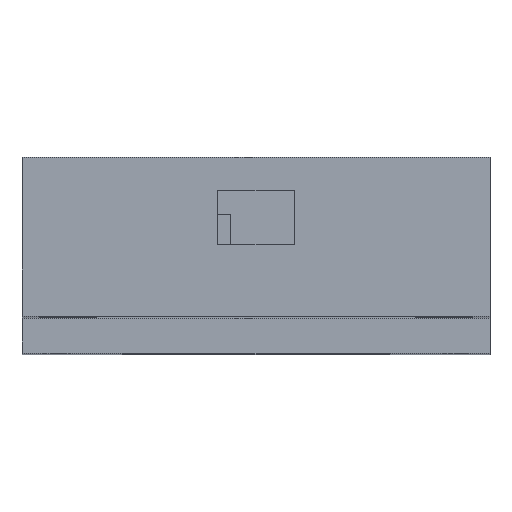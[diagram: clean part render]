
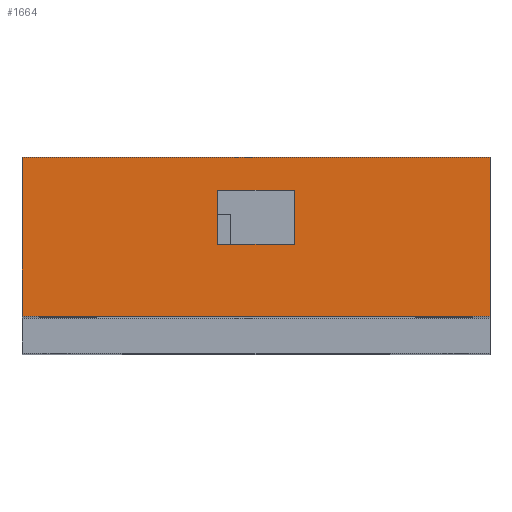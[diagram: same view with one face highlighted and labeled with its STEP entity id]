
A CAD part, top view. The second image highlights one B-rep face of the part: STEP entity #1664.
In plain terms, the highlighted planar face has unit normal (0, 0, 1).
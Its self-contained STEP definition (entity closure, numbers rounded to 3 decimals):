
#1369 = VERTEX_POINT('',#1370);
#1370 = CARTESIAN_POINT('',(-18.,-4.6,36.));
#1377 = PLANE('',#1378);
#1378 = AXIS2_PLACEMENT_3D('',#1379,#1380,#1381);
#1379 = CARTESIAN_POINT('',(-18.,-4.6,-36.));
#1380 = DIRECTION('',(1.,0.,0.));
#1381 = DIRECTION('',(0.,0.,1.));
#1389 = PLANE('',#1390);
#1390 = AXIS2_PLACEMENT_3D('',#1391,#1392,#1393);
#1391 = CARTESIAN_POINT('',(-18.,-4.6,-36.));
#1392 = DIRECTION('',(0.,1.,0.));
#1393 = DIRECTION('',(0.,0.,1.));
#1430 = VERTEX_POINT('',#1431);
#1431 = CARTESIAN_POINT('',(-18.,10.,36.));
#1445 = PLANE('',#1446);
#1446 = AXIS2_PLACEMENT_3D('',#1447,#1448,#1449);
#1447 = CARTESIAN_POINT('',(-18.,10.,-36.));
#1448 = DIRECTION('',(0.,1.,0.));
#1449 = DIRECTION('',(0.,0.,1.));
#1457 = EDGE_CURVE('',#1369,#1430,#1458,.T.);
#1458 = SURFACE_CURVE('',#1459,(#1463,#1470),.PCURVE_S1.);
#1459 = LINE('',#1460,#1461);
#1460 = CARTESIAN_POINT('',(-18.,-4.6,36.));
#1461 = VECTOR('',#1462,1.);
#1462 = DIRECTION('',(0.,1.,0.));
#1463 = PCURVE('',#1377,#1464);
#1464 = DEFINITIONAL_REPRESENTATION('',(#1465),#1469);
#1465 = LINE('',#1466,#1467);
#1466 = CARTESIAN_POINT('',(72.,0.));
#1467 = VECTOR('',#1468,1.);
#1468 = DIRECTION('',(0.,-1.));
#1469 = ( GEOMETRIC_REPRESENTATION_CONTEXT(2) 
PARAMETRIC_REPRESENTATION_CONTEXT() REPRESENTATION_CONTEXT('2D SPACE',''
  ) );
#1470 = PCURVE('',#1471,#1476);
#1471 = PLANE('',#1472);
#1472 = AXIS2_PLACEMENT_3D('',#1473,#1474,#1475);
#1473 = CARTESIAN_POINT('',(-18.,-4.6,36.));
#1474 = DIRECTION('',(0.,0.,1.));
#1475 = DIRECTION('',(1.,0.,0.));
#1476 = DEFINITIONAL_REPRESENTATION('',(#1477),#1481);
#1477 = LINE('',#1478,#1479);
#1478 = CARTESIAN_POINT('',(0.,0.));
#1479 = VECTOR('',#1480,1.);
#1480 = DIRECTION('',(0.,1.));
#1481 = ( GEOMETRIC_REPRESENTATION_CONTEXT(2) 
PARAMETRIC_REPRESENTATION_CONTEXT() REPRESENTATION_CONTEXT('2D SPACE',''
  ) );
#1510 = EDGE_CURVE('',#1369,#1511,#1513,.T.);
#1511 = VERTEX_POINT('',#1512);
#1512 = CARTESIAN_POINT('',(25.,-4.6,36.));
#1513 = SURFACE_CURVE('',#1514,(#1518,#1525),.PCURVE_S1.);
#1514 = LINE('',#1515,#1516);
#1515 = CARTESIAN_POINT('',(-18.,-4.6,36.));
#1516 = VECTOR('',#1517,1.);
#1517 = DIRECTION('',(1.,0.,0.));
#1518 = PCURVE('',#1389,#1519);
#1519 = DEFINITIONAL_REPRESENTATION('',(#1520),#1524);
#1520 = LINE('',#1521,#1522);
#1521 = CARTESIAN_POINT('',(72.,0.));
#1522 = VECTOR('',#1523,1.);
#1523 = DIRECTION('',(0.,1.));
#1524 = ( GEOMETRIC_REPRESENTATION_CONTEXT(2) 
PARAMETRIC_REPRESENTATION_CONTEXT() REPRESENTATION_CONTEXT('2D SPACE',''
  ) );
#1525 = PCURVE('',#1471,#1526);
#1526 = DEFINITIONAL_REPRESENTATION('',(#1527),#1531);
#1527 = LINE('',#1528,#1529);
#1528 = CARTESIAN_POINT('',(0.,0.));
#1529 = VECTOR('',#1530,1.);
#1530 = DIRECTION('',(1.,0.));
#1531 = ( GEOMETRIC_REPRESENTATION_CONTEXT(2) 
PARAMETRIC_REPRESENTATION_CONTEXT() REPRESENTATION_CONTEXT('2D SPACE',''
  ) );
#1547 = PLANE('',#1548);
#1548 = AXIS2_PLACEMENT_3D('',#1549,#1550,#1551);
#1549 = CARTESIAN_POINT('',(25.,-4.6,-36.));
#1550 = DIRECTION('',(1.,0.,0.));
#1551 = DIRECTION('',(0.,0.,1.));
#1664 = ADVANCED_FACE('',(#1665,#1713),#1471,.T.);
#1665 = FACE_BOUND('',#1666,.T.);
#1666 = EDGE_LOOP('',(#1667,#1668,#1669,#1692));
#1667 = ORIENTED_EDGE('',*,*,#1457,.F.);
#1668 = ORIENTED_EDGE('',*,*,#1510,.T.);
#1669 = ORIENTED_EDGE('',*,*,#1670,.T.);
#1670 = EDGE_CURVE('',#1511,#1671,#1673,.T.);
#1671 = VERTEX_POINT('',#1672);
#1672 = CARTESIAN_POINT('',(25.,10.,36.));
#1673 = SURFACE_CURVE('',#1674,(#1678,#1685),.PCURVE_S1.);
#1674 = LINE('',#1675,#1676);
#1675 = CARTESIAN_POINT('',(25.,-4.6,36.));
#1676 = VECTOR('',#1677,1.);
#1677 = DIRECTION('',(0.,1.,0.));
#1678 = PCURVE('',#1471,#1679);
#1679 = DEFINITIONAL_REPRESENTATION('',(#1680),#1684);
#1680 = LINE('',#1681,#1682);
#1681 = CARTESIAN_POINT('',(43.,0.));
#1682 = VECTOR('',#1683,1.);
#1683 = DIRECTION('',(0.,1.));
#1684 = ( GEOMETRIC_REPRESENTATION_CONTEXT(2) 
PARAMETRIC_REPRESENTATION_CONTEXT() REPRESENTATION_CONTEXT('2D SPACE',''
  ) );
#1685 = PCURVE('',#1547,#1686);
#1686 = DEFINITIONAL_REPRESENTATION('',(#1687),#1691);
#1687 = LINE('',#1688,#1689);
#1688 = CARTESIAN_POINT('',(72.,0.));
#1689 = VECTOR('',#1690,1.);
#1690 = DIRECTION('',(0.,-1.));
#1691 = ( GEOMETRIC_REPRESENTATION_CONTEXT(2) 
PARAMETRIC_REPRESENTATION_CONTEXT() REPRESENTATION_CONTEXT('2D SPACE',''
  ) );
#1692 = ORIENTED_EDGE('',*,*,#1693,.F.);
#1693 = EDGE_CURVE('',#1430,#1671,#1694,.T.);
#1694 = SURFACE_CURVE('',#1695,(#1699,#1706),.PCURVE_S1.);
#1695 = LINE('',#1696,#1697);
#1696 = CARTESIAN_POINT('',(-18.,10.,36.));
#1697 = VECTOR('',#1698,1.);
#1698 = DIRECTION('',(1.,0.,0.));
#1699 = PCURVE('',#1471,#1700);
#1700 = DEFINITIONAL_REPRESENTATION('',(#1701),#1705);
#1701 = LINE('',#1702,#1703);
#1702 = CARTESIAN_POINT('',(0.,14.6));
#1703 = VECTOR('',#1704,1.);
#1704 = DIRECTION('',(1.,0.));
#1705 = ( GEOMETRIC_REPRESENTATION_CONTEXT(2) 
PARAMETRIC_REPRESENTATION_CONTEXT() REPRESENTATION_CONTEXT('2D SPACE',''
  ) );
#1706 = PCURVE('',#1445,#1707);
#1707 = DEFINITIONAL_REPRESENTATION('',(#1708),#1712);
#1708 = LINE('',#1709,#1710);
#1709 = CARTESIAN_POINT('',(72.,0.));
#1710 = VECTOR('',#1711,1.);
#1711 = DIRECTION('',(0.,1.));
#1712 = ( GEOMETRIC_REPRESENTATION_CONTEXT(2) 
PARAMETRIC_REPRESENTATION_CONTEXT() REPRESENTATION_CONTEXT('2D SPACE',''
  ) );
#1713 = FACE_BOUND('',#1714,.T.);
#1714 = EDGE_LOOP('',(#1715,#1743,#1769,#1795));
#1715 = ORIENTED_EDGE('',*,*,#1716,.T.);
#1716 = EDGE_CURVE('',#1717,#1719,#1721,.T.);
#1717 = VERTEX_POINT('',#1718);
#1718 = CARTESIAN_POINT('',(7.,2.,36.));
#1719 = VERTEX_POINT('',#1720);
#1720 = CARTESIAN_POINT('',(0.,2.,36.));
#1721 = SURFACE_CURVE('',#1722,(#1726,#1732),.PCURVE_S1.);
#1722 = LINE('',#1723,#1724);
#1723 = CARTESIAN_POINT('',(-9.,2.,36.));
#1724 = VECTOR('',#1725,1.);
#1725 = DIRECTION('',(-1.,0.,0.));
#1726 = PCURVE('',#1471,#1727);
#1727 = DEFINITIONAL_REPRESENTATION('',(#1728),#1731);
#1728 = B_SPLINE_CURVE_WITH_KNOTS('',1,(#1729,#1730),.UNSPECIFIED.,.F.,
  .F.,(2,2),(-16.,-9.),.PIECEWISE_BEZIER_KNOTS.);
#1729 = CARTESIAN_POINT('',(25.,6.6));
#1730 = CARTESIAN_POINT('',(18.,6.6));
#1731 = ( GEOMETRIC_REPRESENTATION_CONTEXT(2) 
PARAMETRIC_REPRESENTATION_CONTEXT() REPRESENTATION_CONTEXT('2D SPACE',''
  ) );
#1732 = PCURVE('',#1733,#1738);
#1733 = PLANE('',#1734);
#1734 = AXIS2_PLACEMENT_3D('',#1735,#1736,#1737);
#1735 = CARTESIAN_POINT('',(0.,2.,30.8));
#1736 = DIRECTION('',(0.,1.,0.));
#1737 = DIRECTION('',(0.,0.,1.));
#1738 = DEFINITIONAL_REPRESENTATION('',(#1739),#1742);
#1739 = B_SPLINE_CURVE_WITH_KNOTS('',1,(#1740,#1741),.UNSPECIFIED.,.F.,
  .F.,(2,2),(-16.,-9.),.PIECEWISE_BEZIER_KNOTS.);
#1740 = CARTESIAN_POINT('',(5.2,7.));
#1741 = CARTESIAN_POINT('',(5.2,0.));
#1742 = ( GEOMETRIC_REPRESENTATION_CONTEXT(2) 
PARAMETRIC_REPRESENTATION_CONTEXT() REPRESENTATION_CONTEXT('2D SPACE',''
  ) );
#1743 = ORIENTED_EDGE('',*,*,#1744,.T.);
#1744 = EDGE_CURVE('',#1719,#1745,#1747,.T.);
#1745 = VERTEX_POINT('',#1746);
#1746 = CARTESIAN_POINT('',(0.,7.,36.));
#1747 = SURFACE_CURVE('',#1748,(#1752,#1758),.PCURVE_S1.);
#1748 = LINE('',#1749,#1750);
#1749 = CARTESIAN_POINT('',(0.,-1.3,36.));
#1750 = VECTOR('',#1751,1.);
#1751 = DIRECTION('',(0.,1.,0.));
#1752 = PCURVE('',#1471,#1753);
#1753 = DEFINITIONAL_REPRESENTATION('',(#1754),#1757);
#1754 = B_SPLINE_CURVE_WITH_KNOTS('',1,(#1755,#1756),.UNSPECIFIED.,.F.,
  .F.,(2,2),(3.3,8.3),.PIECEWISE_BEZIER_KNOTS.);
#1755 = CARTESIAN_POINT('',(18.,6.6));
#1756 = CARTESIAN_POINT('',(18.,11.6));
#1757 = ( GEOMETRIC_REPRESENTATION_CONTEXT(2) 
PARAMETRIC_REPRESENTATION_CONTEXT() REPRESENTATION_CONTEXT('2D SPACE',''
  ) );
#1758 = PCURVE('',#1759,#1764);
#1759 = PLANE('',#1760);
#1760 = AXIS2_PLACEMENT_3D('',#1761,#1762,#1763);
#1761 = CARTESIAN_POINT('',(0.,2.,30.8));
#1762 = DIRECTION('',(1.,0.,0.));
#1763 = DIRECTION('',(0.,0.,1.));
#1764 = DEFINITIONAL_REPRESENTATION('',(#1765),#1768);
#1765 = B_SPLINE_CURVE_WITH_KNOTS('',1,(#1766,#1767),.UNSPECIFIED.,.F.,
  .F.,(2,2),(3.3,8.3),.PIECEWISE_BEZIER_KNOTS.);
#1766 = CARTESIAN_POINT('',(5.2,0.));
#1767 = CARTESIAN_POINT('',(5.2,-5.));
#1768 = ( GEOMETRIC_REPRESENTATION_CONTEXT(2) 
PARAMETRIC_REPRESENTATION_CONTEXT() REPRESENTATION_CONTEXT('2D SPACE',''
  ) );
#1769 = ORIENTED_EDGE('',*,*,#1770,.F.);
#1770 = EDGE_CURVE('',#1771,#1745,#1773,.T.);
#1771 = VERTEX_POINT('',#1772);
#1772 = CARTESIAN_POINT('',(7.,7.,36.));
#1773 = SURFACE_CURVE('',#1774,(#1778,#1784),.PCURVE_S1.);
#1774 = LINE('',#1775,#1776);
#1775 = CARTESIAN_POINT('',(-9.,7.,36.));
#1776 = VECTOR('',#1777,1.);
#1777 = DIRECTION('',(-1.,0.,0.));
#1778 = PCURVE('',#1471,#1779);
#1779 = DEFINITIONAL_REPRESENTATION('',(#1780),#1783);
#1780 = B_SPLINE_CURVE_WITH_KNOTS('',1,(#1781,#1782),.UNSPECIFIED.,.F.,
  .F.,(2,2),(-16.,-9.),.PIECEWISE_BEZIER_KNOTS.);
#1781 = CARTESIAN_POINT('',(25.,11.6));
#1782 = CARTESIAN_POINT('',(18.,11.6));
#1783 = ( GEOMETRIC_REPRESENTATION_CONTEXT(2) 
PARAMETRIC_REPRESENTATION_CONTEXT() REPRESENTATION_CONTEXT('2D SPACE',''
  ) );
#1784 = PCURVE('',#1785,#1790);
#1785 = PLANE('',#1786);
#1786 = AXIS2_PLACEMENT_3D('',#1787,#1788,#1789);
#1787 = CARTESIAN_POINT('',(0.,7.,30.8));
#1788 = DIRECTION('',(0.,1.,0.));
#1789 = DIRECTION('',(0.,0.,1.));
#1790 = DEFINITIONAL_REPRESENTATION('',(#1791),#1794);
#1791 = B_SPLINE_CURVE_WITH_KNOTS('',1,(#1792,#1793),.UNSPECIFIED.,.F.,
  .F.,(2,2),(-16.,-9.),.PIECEWISE_BEZIER_KNOTS.);
#1792 = CARTESIAN_POINT('',(5.2,7.));
#1793 = CARTESIAN_POINT('',(5.2,0.));
#1794 = ( GEOMETRIC_REPRESENTATION_CONTEXT(2) 
PARAMETRIC_REPRESENTATION_CONTEXT() REPRESENTATION_CONTEXT('2D SPACE',''
  ) );
#1795 = ORIENTED_EDGE('',*,*,#1796,.F.);
#1796 = EDGE_CURVE('',#1717,#1771,#1797,.T.);
#1797 = SURFACE_CURVE('',#1798,(#1802,#1808),.PCURVE_S1.);
#1798 = LINE('',#1799,#1800);
#1799 = CARTESIAN_POINT('',(7.,-1.3,36.));
#1800 = VECTOR('',#1801,1.);
#1801 = DIRECTION('',(0.,1.,0.));
#1802 = PCURVE('',#1471,#1803);
#1803 = DEFINITIONAL_REPRESENTATION('',(#1804),#1807);
#1804 = B_SPLINE_CURVE_WITH_KNOTS('',1,(#1805,#1806),.UNSPECIFIED.,.F.,
  .F.,(2,2),(3.3,8.3),.PIECEWISE_BEZIER_KNOTS.);
#1805 = CARTESIAN_POINT('',(25.,6.6));
#1806 = CARTESIAN_POINT('',(25.,11.6));
#1807 = ( GEOMETRIC_REPRESENTATION_CONTEXT(2) 
PARAMETRIC_REPRESENTATION_CONTEXT() REPRESENTATION_CONTEXT('2D SPACE',''
  ) );
#1808 = PCURVE('',#1809,#1814);
#1809 = PLANE('',#1810);
#1810 = AXIS2_PLACEMENT_3D('',#1811,#1812,#1813);
#1811 = CARTESIAN_POINT('',(7.,2.,30.8));
#1812 = DIRECTION('',(1.,0.,0.));
#1813 = DIRECTION('',(0.,0.,1.));
#1814 = DEFINITIONAL_REPRESENTATION('',(#1815),#1818);
#1815 = B_SPLINE_CURVE_WITH_KNOTS('',1,(#1816,#1817),.UNSPECIFIED.,.F.,
  .F.,(2,2),(3.3,8.3),.PIECEWISE_BEZIER_KNOTS.);
#1816 = CARTESIAN_POINT('',(5.2,0.));
#1817 = CARTESIAN_POINT('',(5.2,-5.));
#1818 = ( GEOMETRIC_REPRESENTATION_CONTEXT(2) 
PARAMETRIC_REPRESENTATION_CONTEXT() REPRESENTATION_CONTEXT('2D SPACE',''
  ) );
